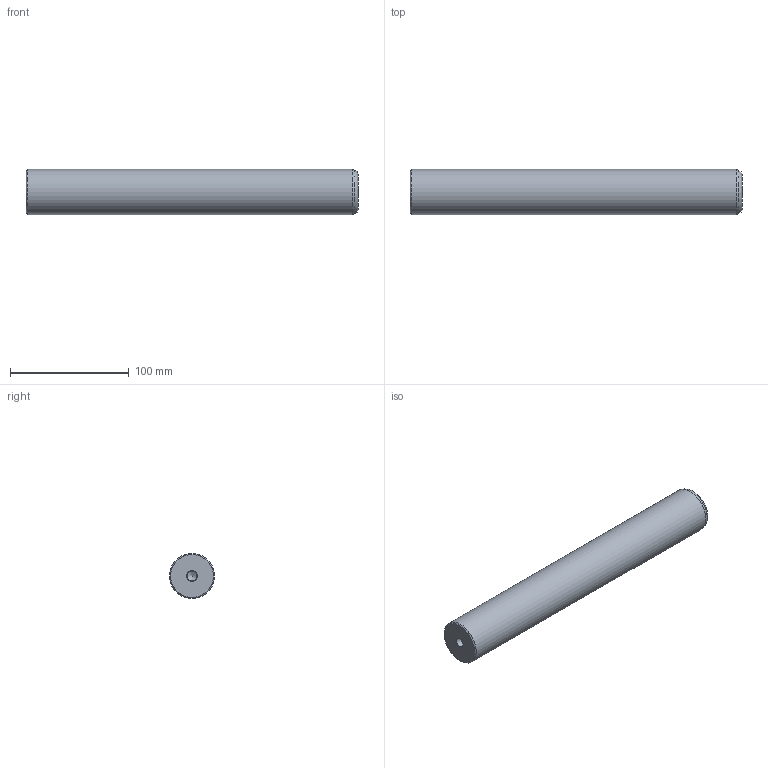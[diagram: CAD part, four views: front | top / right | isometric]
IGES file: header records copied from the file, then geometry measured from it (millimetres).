
Global section: file name: CIAF38280.ipt; native system: Autodesk Inventor 2021; preprocessor: unknown; author: SM; date: 20211220.130037; units: millimetre
Bounding box: 280 x 38 x 38 mm (x, y, z)
Volume: 314388.3 mm3; surface area: 36562.8 mm2
Topology: 1 solids, 1 shells, 12 faces, 31 edges, 21 vertices
Faces by surface type: revolution 5, plane 2, cone 2, bspline 2, cylinder 1
Full cylindrical faces by diameter (mm): 38 x1
